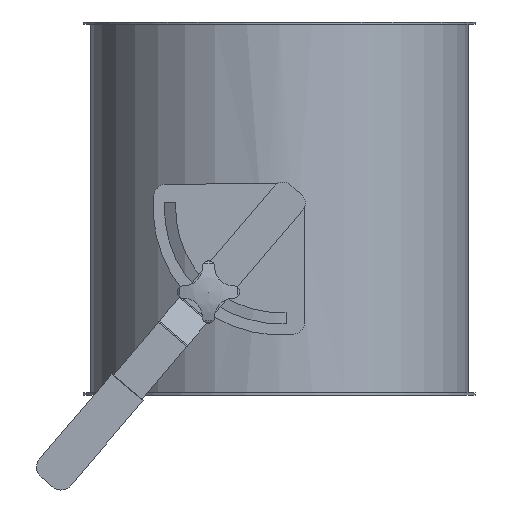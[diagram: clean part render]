
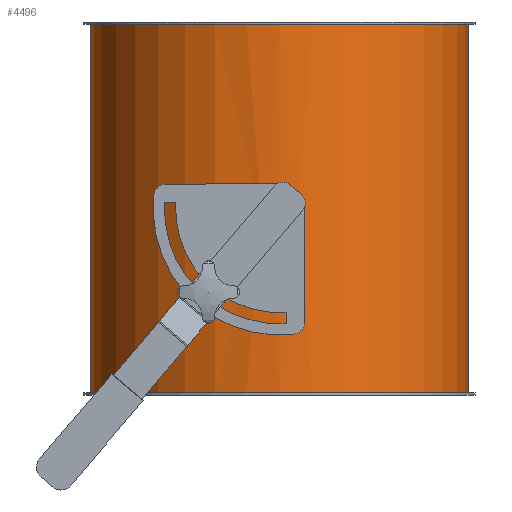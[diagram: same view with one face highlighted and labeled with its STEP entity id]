
A CAD part, left-side view. The second image highlights one B-rep face of the part: STEP entity #4496.
In plain terms, the highlighted cylindrical face has radius 151.5 mm (diameter 303 mm), a full revolution.
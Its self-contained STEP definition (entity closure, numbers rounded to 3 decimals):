
#4371=CARTESIAN_POINT('',(150.312,18.938,150.0));
#4372=VERTEX_POINT('',#4371);
#4382=CARTESIAN_POINT('',(150.312,18.937,150.));
#4383=CARTESIAN_POINT('',(150.312,18.937,150.002));
#4384=CARTESIAN_POINT('',(150.312,18.937,150.003));
#4385=CARTESIAN_POINT('',(150.312,18.937,150.005));
#4386=CARTESIAN_POINT('',(150.312,18.936,152.909));
#4387=CARTESIAN_POINT('',(150.481,17.664,158.707));
#4388=CARTESIAN_POINT('',(151.057,12.226,165.749));
#4389=CARTESIAN_POINT('',(151.517,4.403,169.649));
#4390=CARTESIAN_POINT('',(151.517,-4.35,169.663));
#4391=CARTESIAN_POINT('',(151.062,-12.184,165.777));
#4392=CARTESIAN_POINT('',(150.415,-18.25,158.));
#4393=CARTESIAN_POINT('',(150.226,-19.581,148.949));
#4394=CARTESIAN_POINT('',(150.586,-16.765,139.525));
#4395=CARTESIAN_POINT('',(151.135,-11.407,133.587));
#4396=CARTESIAN_POINT('',(151.518,-3.402,130.344));
#4397=CARTESIAN_POINT('',(151.518,4.351,130.339));
#4398=CARTESIAN_POINT('',(151.058,12.209,134.23));
#4399=CARTESIAN_POINT('',(150.58,16.736,140.084));
#4400=CARTESIAN_POINT('',(150.353,18.613,145.611));
#4401=CARTESIAN_POINT('',(150.312,18.937,148.55));
#4402=CARTESIAN_POINT('',(150.312,18.937,150.));
#4403=B_SPLINE_CURVE_WITH_KNOTS('',3,(#4382,#4383,#4384,#4385,#4386,#4387,#4388,#4389,#4390,#4391,#4392,#4393,#4394,#4395,#4396,#4397,#4398,#4399,#4400,#4401,#4402),.UNSPECIFIED.,.T.,.U.,(4,3,1,1,1,1,1,1,1,1,1,1,1,1,1,1,4),(-9.047,-9.047,-8.401,-7.754,-7.108,-6.462,-5.816,-5.17,-4.308,-3.877,-3.016,-2.585,-1.939,-1.292,-0.646,-0.323,0.),.UNSPECIFIED.);
#4404=EDGE_CURVE('',#4372,#4372,#4403,.T.);
#4409=CARTESIAN_POINT('',(0.0,0.0,0.0));
#4410=DIRECTION('',(0.0,0.0,1.0));
#4411=DIRECTION('',(-1.0,0.0,0.0));
#4412=AXIS2_PLACEMENT_3D('',#4409,#4410,#4411);
#4413=CYLINDRICAL_SURFACE('',#4412,151.5);
#4414=CARTESIAN_POINT('',(151.5,0.,298.0));
#4415=VERTEX_POINT('',#4414);
#4416=CARTESIAN_POINT('',(0.0,0.0,298.0));
#4417=DIRECTION('',(0.0,0.0,-1.0));
#4418=DIRECTION('',(-1.0,0.0,0.0));
#4419=AXIS2_PLACEMENT_3D('',#4416,#4417,#4418);
#4420=CIRCLE('',#4419,151.5);
#4421=EDGE_CURVE('',#4415,#4415,#4420,.T.);
#4422=ORIENTED_EDGE('',*,*,#4421,.T.);
#4423=EDGE_LOOP('',(#4422));
#4424=FACE_OUTER_BOUND('',#4423,.T.);
#4425=CARTESIAN_POINT('',(-151.5,0.,2.0));
#4426=VERTEX_POINT('',#4425);
#4427=CARTESIAN_POINT('',(0.0,0.0,2.0));
#4428=DIRECTION('',(0.0,0.0,1.0));
#4429=DIRECTION('',(-1.0,0.0,0.0));
#4430=AXIS2_PLACEMENT_3D('',#4427,#4428,#4429);
#4431=CIRCLE('',#4430,151.5);
#4432=EDGE_CURVE('',#4426,#4426,#4431,.T.);
#4433=ORIENTED_EDGE('',*,*,#4432,.T.);
#4434=EDGE_LOOP('',(#4433));
#4435=FACE_BOUND('',#4434,.T.);
#4436=CARTESIAN_POINT('',(-150.756,15.0,150.0));
#4437=VERTEX_POINT('',#4436);
#4438=CARTESIAN_POINT('',(-150.756,15.0,150.0));
#4439=CARTESIAN_POINT('',(-150.756,15.0,150.942));
#4440=CARTESIAN_POINT('',(-150.765,14.91,151.917));
#4441=CARTESIAN_POINT('',(-150.802,14.53,153.855));
#4442=CARTESIAN_POINT('',(-150.83,14.24,154.818));
#4443=CARTESIAN_POINT('',(-150.935,13.092,157.59));
#4444=CARTESIAN_POINT('',(-151.035,11.938,159.276));
#4445=CARTESIAN_POINT('',(-151.222,9.276,161.938));
#4446=CARTESIAN_POINT('',(-151.321,7.59,163.092));
#4447=CARTESIAN_POINT('',(-151.426,4.818,164.24));
#4448=CARTESIAN_POINT('',(-151.454,3.855,164.53));
#4449=CARTESIAN_POINT('',(-151.491,1.917,164.91));
#4450=CARTESIAN_POINT('',(-151.5,0.942,165.0));
#4451=CARTESIAN_POINT('',(-151.5,-0.942,165.0));
#4452=CARTESIAN_POINT('',(-151.491,-1.917,164.91));
#4453=CARTESIAN_POINT('',(-151.454,-3.855,164.53));
#4454=CARTESIAN_POINT('',(-151.426,-4.818,164.24));
#4455=CARTESIAN_POINT('',(-151.321,-7.59,163.092));
#4456=CARTESIAN_POINT('',(-151.222,-9.276,161.938));
#4457=CARTESIAN_POINT('',(-151.035,-11.938,159.276));
#4458=CARTESIAN_POINT('',(-150.935,-13.092,157.59));
#4459=CARTESIAN_POINT('',(-150.83,-14.24,154.818));
#4460=CARTESIAN_POINT('',(-150.802,-14.53,153.855));
#4461=CARTESIAN_POINT('',(-150.765,-14.91,151.917));
#4462=CARTESIAN_POINT('',(-150.756,-15.0,150.942));
#4463=CARTESIAN_POINT('',(-150.756,-15.0,149.058));
#4464=CARTESIAN_POINT('',(-150.765,-14.91,148.083));
#4465=CARTESIAN_POINT('',(-150.802,-14.53,146.145));
#4466=CARTESIAN_POINT('',(-150.83,-14.24,145.182));
#4467=CARTESIAN_POINT('',(-150.935,-13.092,142.41));
#4468=CARTESIAN_POINT('',(-151.035,-11.938,140.724));
#4469=CARTESIAN_POINT('',(-151.222,-9.276,138.062));
#4470=CARTESIAN_POINT('',(-151.321,-7.59,136.908));
#4471=CARTESIAN_POINT('',(-151.426,-4.818,135.76));
#4472=CARTESIAN_POINT('',(-151.454,-3.855,135.47));
#4473=CARTESIAN_POINT('',(-151.491,-1.917,135.09));
#4474=CARTESIAN_POINT('',(-151.5,-0.942,135.0));
#4475=CARTESIAN_POINT('',(-151.5,0.942,135.0));
#4476=CARTESIAN_POINT('',(-151.491,1.917,135.09));
#4477=CARTESIAN_POINT('',(-151.454,3.855,135.47));
#4478=CARTESIAN_POINT('',(-151.426,4.818,135.76));
#4479=CARTESIAN_POINT('',(-151.321,7.59,136.908));
#4480=CARTESIAN_POINT('',(-151.222,9.276,138.062));
#4481=CARTESIAN_POINT('',(-151.035,11.938,140.724));
#4482=CARTESIAN_POINT('',(-150.935,13.092,142.41));
#4483=CARTESIAN_POINT('',(-150.83,14.24,145.182));
#4484=CARTESIAN_POINT('',(-150.802,14.53,146.145));
#4485=CARTESIAN_POINT('',(-150.765,14.91,148.083));
#4486=CARTESIAN_POINT('',(-150.756,15.0,149.058));
#4487=CARTESIAN_POINT('',(-150.756,15.0,150.0));
#4488=B_SPLINE_CURVE_WITH_KNOTS('',3,(#4438,#4439,#4440,#4441,#4442,#4443,#4444,#4445,#4446,#4447,#4448,#4449,#4450,#4451,#4452,#4453,#4454,#4455,#4456,#4457,#4458,#4459,#4460,#4461,#4462,#4463,#4464,#4465,#4466,#4467,#4468,#4469,#4470,#4471,#4472,#4473,#4474,#4475,#4476,#4477,#4478,#4479,#4480,#4481,#4482,#4483,#4484,#4485,#4486,#4487),.UNSPECIFIED.,.T.,.U.,(4,2,2,2,2,2,2,2,2,2,2,2,2,2,2,2,2,2,2,2,2,2,2,2,4),(0.0,0.283,0.565,1.131,1.696,1.979,2.262,2.544,2.827,3.393,3.958,4.241,4.523,4.806,5.089,5.654,6.22,6.502,6.785,7.068,7.351,7.916,8.481,8.764,9.047),.UNSPECIFIED.);
#4489=EDGE_CURVE('',#4437,#4437,#4488,.T.);
#4490=ORIENTED_EDGE('',*,*,#4489,.T.);
#4491=EDGE_LOOP('',(#4490));
#4492=FACE_BOUND('',#4491,.T.);
#4493=ORIENTED_EDGE('',*,*,#4404,.F.);
#4494=EDGE_LOOP('',(#4493));
#4495=FACE_BOUND('',#4494,.T.);
#4496=ADVANCED_FACE('',(#4424,#4435,#4492,#4495),#4413,.T.);
